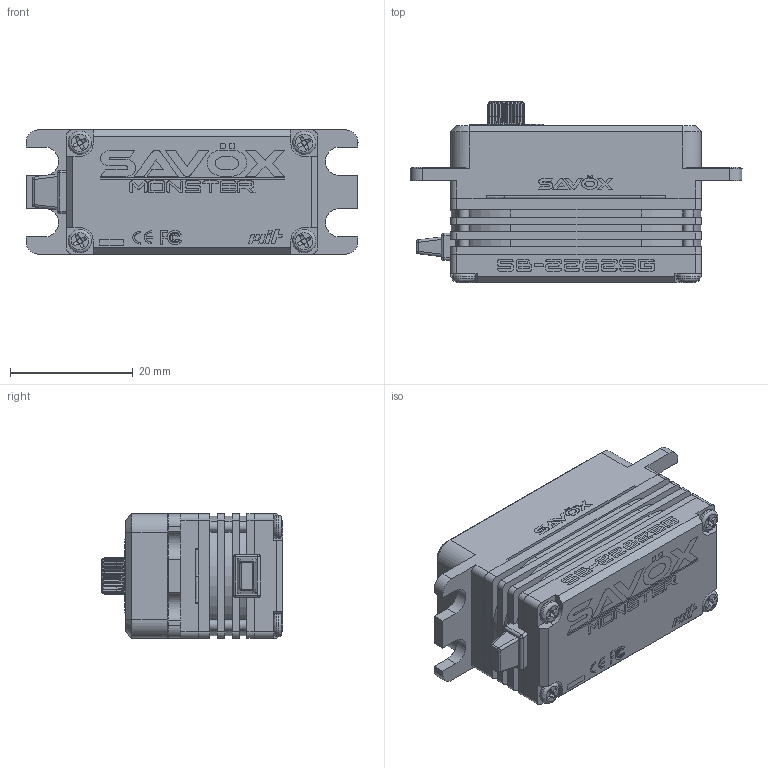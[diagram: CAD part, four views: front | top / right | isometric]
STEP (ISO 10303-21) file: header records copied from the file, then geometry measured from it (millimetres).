
FILE_DESCRIPTION (( 'STEP AP214' ), '1' );
FILE_NAME ('SB-2262SG_3D??.STEP', '2025-04-15T11:29:00', ( '' ), ( '' ), 'SwSTEP 2.0', 'SolidWorks 2024', '' );
FILE_SCHEMA (( 'AUTOMOTIVE_DESIGN' ));
Length unit declared in the file: millimetre
Products named in the file (1): SB-2262SG_3D零件
Bounding box: 54 x 29.55 x 20.2 mm (x, y, z)
Volume: 21005.6 mm3; surface area: 6278.6 mm2
Topology: 1 solids, 2 shells, 680 faces, 3245 edges, 2683 vertices
Faces by surface type: plane 346, cylinder 190, cone 88, bspline 56
Full cylindrical faces by diameter (mm): 1.7 x12, 2.5 x1, 3.15 x1, 3.8 x4, 6.1 x1, 12 x1
Entity records: 44505 total; most frequent: CARTESIAN_POINT 12847, ORIENTED_EDGE 6374, DIRECTION 3687, EDGE_CURVE 3187, VERTEX_POINT 2662, VECTOR 1525, LINE 1525, B_SPLINE_CURVE_WITH_KNOTS 1158
